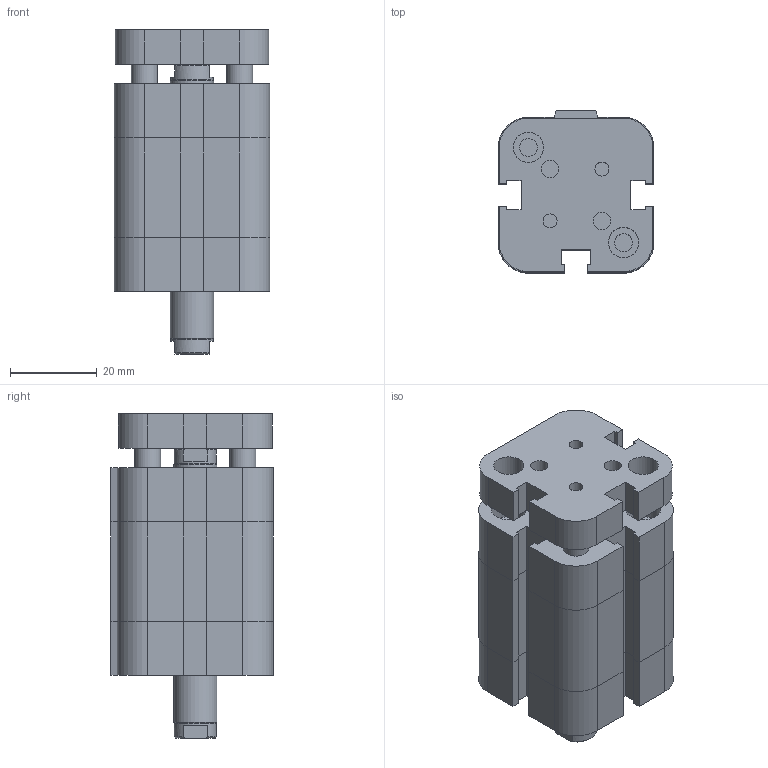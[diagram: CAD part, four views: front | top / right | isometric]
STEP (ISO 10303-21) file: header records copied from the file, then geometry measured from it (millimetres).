
FILE_DESCRIPTION((''),'2;1');
FILE_NAME('I:\Area Tecnica\Disegni\VARIE-3D\Componenti\EUROPE\15##_###_####_08_#\1581_20_0010_08_1.iam.stp','2009-04-20T15:30:16',(''),(''),'Autodesk Inventor 2009','Autodesk Inventor 2009','');
FILE_SCHEMA(('AUTOMOTIVE_DESIGN { 1 0 10303 214 1 1 1 1 }'));
Length unit declared in the file: millimetre
Products named in the file (3): 1581_20_0010_08_1; 1581_20_0010_08_1_C; 1561_20_0010_08_1_SA
Assembly tree (2 placements, depth 2):
  1581_20_0010_08_1
    1581_20_0010_08_1_C
    1561_20_0010_08_1_SA
Bounding box: 36 x 37.5 x 75 mm (x, y, z)
Volume: 63551 mm3; surface area: 22252.1 mm2
Topology: 2 solids, 2 shells, 209 faces, 490 edges, 306 vertices
Faces by surface type: plane 135, bspline 47, cylinder 21, cone 6
Full cylindrical faces by diameter (mm): 6 x2, 9.8 x2, 10 x1
Entity records: 6154 total; most frequent: CARTESIAN_POINT 1453, ORIENTED_EDGE 884, DIRECTION 862, EDGE_CURVE 442, VECTOR 340, LINE 340, VERTEX_POINT 290, EDGE_LOOP 276
